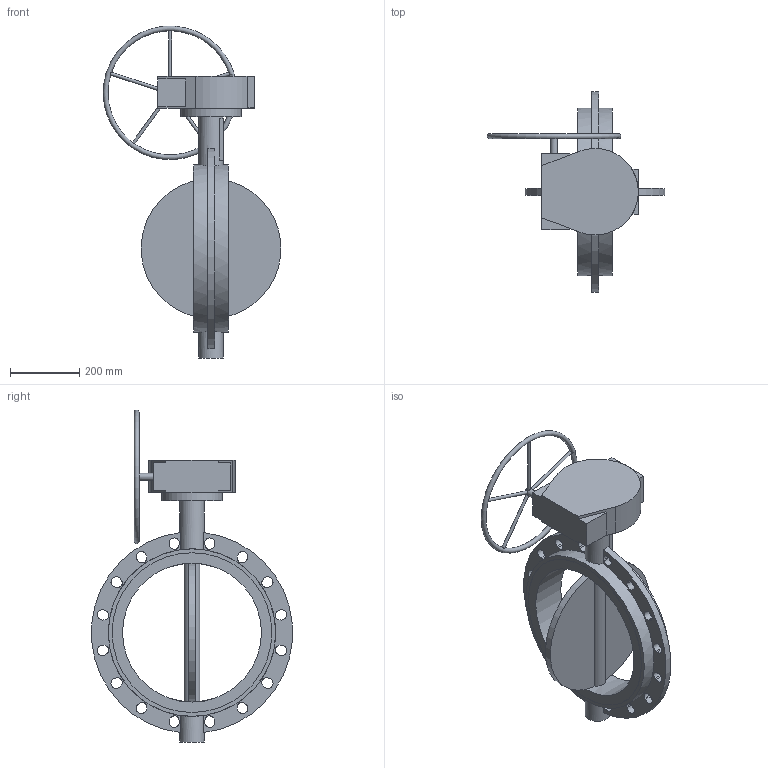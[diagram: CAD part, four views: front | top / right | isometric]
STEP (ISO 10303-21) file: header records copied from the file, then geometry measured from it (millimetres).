
FILE_DESCRIPTION(('STEP AP203'), '1');
FILE_NAME('青蜮铕 017WDN400 疱潴牝铕', '', ('UNSPECIFIED'), ('UNSPECIFIED'), 'ASCON STEP Converter 1.6', 'ASCON Math Kernel', '');
FILE_SCHEMA(('CONFIG_CONTROL_DESIGN'));
Length unit declared in the file: millimetre
Bounding box: 511.26 x 577.88 x 955.98 mm (x, y, z)
Volume: 17048903.4 mm3; surface area: 1188518.1 mm2
Topology: 1 solids, 1 shells, 731 faces, 2086 edges, 1389 vertices
Faces by surface type: cylinder 511, plane 219, torus 1
Full cylindrical faces by diameter (mm): 9 x5, 14 x4, 18 x4, 20 x1, 70 x2, 175 x1, 400 x1, 460 x2, 482 x2
Entity records: 32791 total; most frequent: CARTESIAN_POINT 6875, DIRECTION 4513, ORIENTED_EDGE 4122, EDGE_CURVE 2061, AXIS2_PLACEMENT_3D 1750, VERTEX_POINT 1388, CIRCLE 1018, LINE 1013
